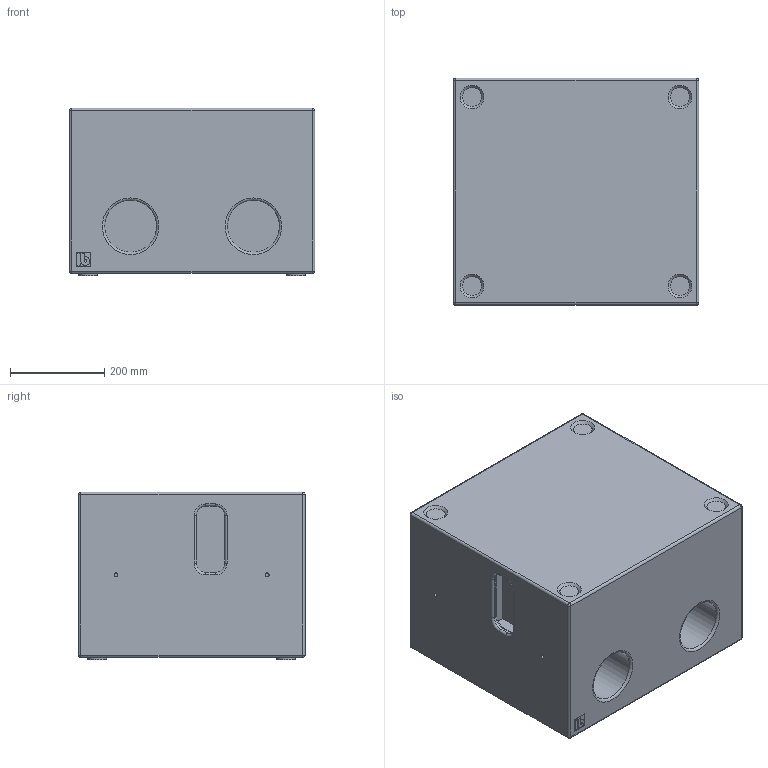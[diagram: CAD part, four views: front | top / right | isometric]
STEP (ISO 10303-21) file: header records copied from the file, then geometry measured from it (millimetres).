
FILE_DESCRIPTION(/* description */ (''),/* implementation_level */ '2;1');
FILE_NAME(/* name */ 'B12 B.stp',/* time_stamp */ '2024-08-21T16:24:04+02:00',/* author */ ('d.streicher'),/* organization */ (''),/* preprocessor_version */ 'ST-DEVELOPER v20',/* originating_system */ 'Autodesk Inventor 2025',/* authorisation */ '');
FILE_SCHEMA (('AUTOMOTIVE_DESIGN { 1 0 10303 214 3 1 1 }'));
Length unit declared in the file: millimetre
Products named in the file (1): B12 B
Bounding box: 520 x 481.5 x 355 mm (x, y, z)
Volume: 80779041.8 mm3; surface area: 1455801.6 mm2
Topology: 1 solids, 1 shells, 156 faces, 326 edges, 196 vertices
Faces by surface type: plane 62, cylinder 60, torus 22, sphere 8, cone 4
Full cylindrical faces by diameter (mm): 8 x4, 22 x2, 40 x4, 110 x2
Entity records: 4376 total; most frequent: DIRECTION 794, CARTESIAN_POINT 679, ORIENTED_EDGE 652, EDGE_CURVE 326, AXIS2_PLACEMENT_3D 311, VERTEX_POINT 196, EDGE_LOOP 180, LINE 172
